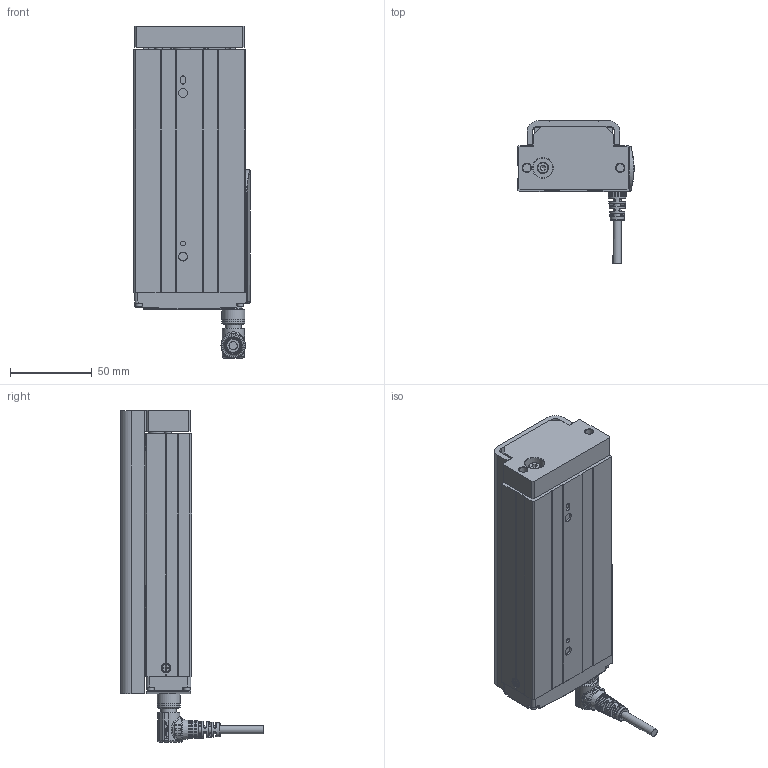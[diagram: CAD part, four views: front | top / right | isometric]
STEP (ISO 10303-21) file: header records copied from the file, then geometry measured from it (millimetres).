
FILE_DESCRIPTION(/* description */ ('STEP AP203'),/* implementation_level */ '2;1');
FILE_NAME(/* name */ 'D:\暫\2025.02.06 CSG 3D\CSG25\CSG25-S100-WM.stp',/* time_stamp */ '2025-02-08T10:06:59+08:00',/* author */ ('T10033'),/* organization */ (''),/* preprocessor_version */ 'ST-DEVELOPER v18.1',/* originating_system */ 'Autodesk Inventor 2020',/* authorisation */ '');
FILE_SCHEMA (('CONFIG_CONTROL_DESIGN'));
Products named in the file (17): CSG25-50行程-180接頭-完整組合; countersunk flat head cross recess screw_iso_ISO 7046-1 - M2.5 x 4 - 
Z - 4N; ©T©wªO-·¥­­¾×ª
O4-M2¤ú; socket head cap screw_iso_ISO 4762 M2.5 x 6 - 6N; socket head cap screw_iso_ISO 4762 M2.5 x 8 - 8N; ¶ì½¦ºÝ»-L¼Ë¦¡
(TOYO); socket head cap screw_iso_ISO 4762 M2 x 12 - 12N; M12 -14PIN  ªOºÝ-²Ä¤@ºØ
³W®æ; CSG25-50¥»Åé3ª©-ªo¤Õ
½Õ¾ã¨¤«×; CSG25-Carriage-newtype; Solid1-2; M12-14PIN 線端90度接頭-05中繼線; socket head cap screw_iso_ISO 4762 M2.5 x 5 - 5N; 12003-000221-­×§ï; 22024-000496; CNS 3932 - M 4 x 0.7 x 12; CNS 4558 - M5 x 0.8 x 12
Assembly tree (28 placements, depth 2):
  CSG25-50行程-180接頭-完整組合
    socket head cap screw_iso_ISO 4762 M2.5 x 8 - 8N  x8
    countersunk flat head cross recess screw_iso_ISO 7046-1 - M2.5 x 4 - 
Z - 4N
    ©T©wªO-·¥­­¾×ª
O4-M2¤ú
    socket head cap screw_iso_ISO 4762 M2.5 x 6 - 6N  x2
    ¶ì½¦ºÝ»-L¼Ë¦¡
(TOYO)
    socket head cap screw_iso_ISO 4762 M2 x 12 - 12N  x4
    M12 -14PIN  ªOºÝ-²Ä¤@ºØ
³W®æ
    CSG25-50¥»Åé3ª©-ªo¤Õ
½Õ¾ã¨¤«×
    CSG25-Carriage-newtype
    Solid1-2
    M12-14PIN 線端90度接頭-05中繼線
    socket head cap screw_iso_ISO 4762 M2.5 x 5 - 5N
    12003-000221-­×§ï
    22024-000496
    CNS 3932 - M 4 x 0.7 x 12
    CNS 4558 - M5 x 0.8 x 12  x2
Bounding box: 71 x 87.54 x 203 mm (x, y, z)
Volume: 404935 mm3; surface area: 98915.5 mm2
Topology: 42 solids, 51 shells, 2978 faces, 8190 edges, 5439 vertices
Faces by surface type: plane 1429, bspline 647, cylinder 492, cone 282, torus 124, sphere 4
Full cylindrical faces by diameter (mm): 0.6 x14, 0.65 x14, 1 x14, 1.6 x4, 2 x4, 2.05 x3, 2.5 x12, 2.9 x2, 3 x3, 3.8 x4, 4 x1, 4.134 x8, 4.5 x11, 4.7 x1, 5 x6, 5.3 x2, 5.4 x4, 5.5 x4, 6 x3, 7 x1, 8 x1, 8.9 x1, 9 x12, 9.5 x2, 9.6 x1, 10 x6, 10.4 x2, 10.5 x2, 10.9 x1, 11 x3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
Entity records: 115035 total; most frequent: CARTESIAN_POINT 44506, ORIENTED_EDGE 15100, DIRECTION 13226, EDGE_CURVE 7568, VERTEX_POINT 5052, AXIS2_PLACEMENT_3D 4617, LINE 3992, VECTOR 3992
